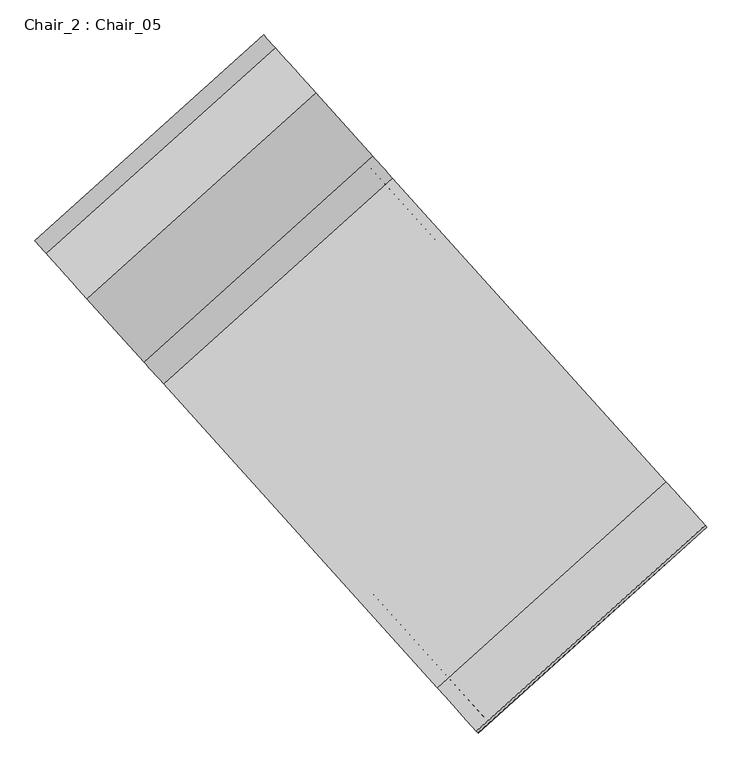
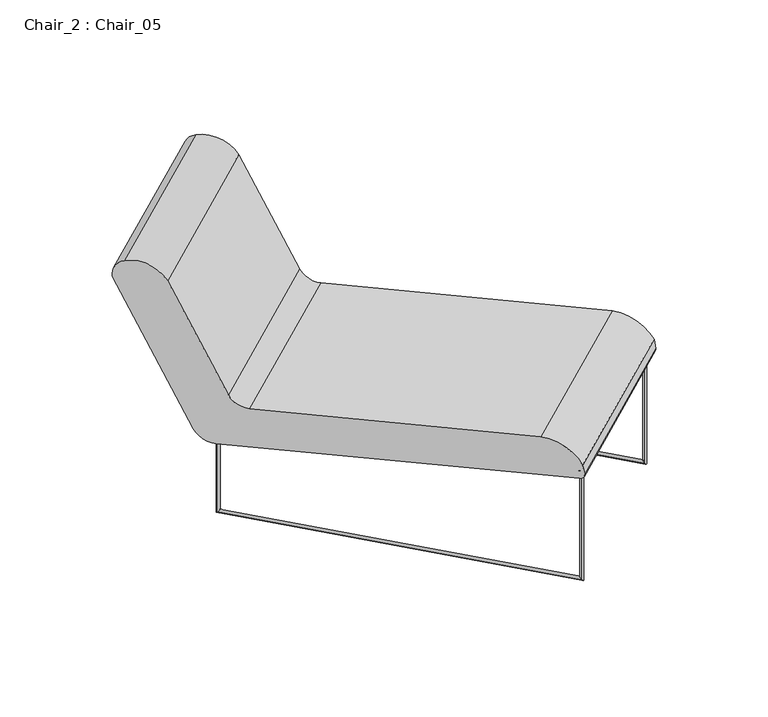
"""IFC4 building model written with IfcOpenShell, lengths in millimetres: furniture geometry, Chair_2 : Chair_05."""

from ifc_helpers import new_model, si_unit, point, frame, frame_2d, origin, place, context, project, spatial, polyline, circle_curve, ellipse_curve, trimmed, segment, composite_curve, outline, extrude, source, transform, mapped, element, save
from ifc_brep_helpers import cylinder_surface, advanced_brep


def chair_2_chair_05_0295ca72(model_context):
    return source(origin(), model_context, "Body", "SolidModel", [
        advanced_brep(
        [(-4191.8663449, 23696.7700207, 8319.9472793), (-4199.8920961, 23690.80451, 8320.7909916), (-4199.8920961, 23690.80451, 8077.5760733), (-4191.8663449, 23696.7700207, 8078.5131107), (-3504.9344847, 22918.9758895, 8077.5760733), (-3498.1627343, 22926.3341091, 8078.5131107), (-3504.9344847, 22918.9758895, 8429.9520248), (-3498.1627343, 22926.3341091, 8428.9113393)],
        [
            (0, 1, ellipse_curve(frame((-4195.8792205, 23693.7872653, 8320.3691355), z_axis=(-0.44773576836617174, 0.49726094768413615, -0.7431448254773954), x_axis=(-0.4972609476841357, 0.5522642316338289, 0.669130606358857)), 6.7281636, 5.0)),
            (1, 2),
            (2, 3, ellipse_curve(frame((-4195.8792205, 23693.7872653, 8078.044592), z_axis=(-0.47314678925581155, 0.5254827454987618, 0.7071067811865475), x_axis=(0.4731467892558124, -0.525482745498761, 0.7071067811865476)), 7.0710678, 5.0)),
            (3, 0),
            (1, 0, ellipse_curve(frame((-4195.8792205, 23693.7872653, 8320.3691355), z_axis=(-0.44773576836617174, 0.49726094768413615, -0.7431448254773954), x_axis=(-0.4972609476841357, 0.5522642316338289, 0.669130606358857)), 6.7281636, 5.0)),
            (3, 2, ellipse_curve(frame((-4195.8792205, 23693.7872653, 8078.044592), z_axis=(-0.47314678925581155, 0.5254827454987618, 0.7071067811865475), x_axis=(0.4731467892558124, -0.525482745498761, 0.7071067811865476)), 7.0710678, 5.0)),
            (2, 4),
            (4, 5, ellipse_curve(frame((-3501.5486095, 22922.6549993, 8078.044592), z_axis=(-0.47314678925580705, 0.5254827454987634, -0.7071067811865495), x_axis=(-0.47314678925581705, 0.5254827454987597, 0.7071067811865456)), 7.0710678, 5.0)),
            (5, 3),
            (5, 4, ellipse_curve(frame((-3501.5486095, 22922.6549993, 8078.044592), z_axis=(-0.47314678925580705, 0.5254827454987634, -0.7071067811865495), x_axis=(-0.47314678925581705, 0.5254827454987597, 0.7071067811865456)), 7.0710678, 5.0)),
            (4, 6),
            (6, 7, ellipse_curve(frame((-3501.5486095, 22922.6549993, 8429.431682), z_axis=(0.4972609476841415, -0.5522642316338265, -0.6691306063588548), x_axis=(-0.44773576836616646, 0.49726094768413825, -0.7431448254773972)), 7.4723827, 5.0)),
            (7, 5),
            (7, 6, ellipse_curve(frame((-3501.5486095, 22922.6549993, 8429.431682), z_axis=(0.4972609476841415, -0.5522642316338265, -0.6691306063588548), x_axis=(-0.44773576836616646, 0.49726094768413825, -0.7431448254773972)), 7.4723827, 5.0)),
            (6, 1),
            (0, 7),
        ],
        [
            cylinder_surface(frame((-4195.8792205, 23693.7872653, 8318.6084782), z_axis=(0.0, 0.0, 1.0), x_axis=(0.802575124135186, 0.5965510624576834, 0.0)), 5.0),
            cylinder_surface(frame((-4194.5707971, 23692.334114, 8078.044592), z_axis=(-0.669130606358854, 0.743144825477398, 0.0), x_axis=(0.739875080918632, 0.6661865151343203, 0.09370374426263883)), 5.0),
            cylinder_surface(frame((-3501.5486095, 22922.6549993, 8080.0), z_axis=(0.0, 0.0, -1.0000000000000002), x_axis=(0.6771750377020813, 0.7358219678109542, 0.0)), 5.0),
            cylinder_surface(frame((-3502.9938003, 22924.2600463, 8429.2046775), z_axis=(0.6654650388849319, -0.739073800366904, 0.1045284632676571), x_axis=(0.7464290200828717, 0.6589076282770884, -0.093190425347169)), 5.0),
        ],
        [
            (0, [[1, 2, 3, 4]]),
            (0, [[5, -4, 6, -2]]),
            (1, [[-3, 7, 8, 9]]),
            (1, [[-6, -9, 10, -7]]),
            (2, [[-8, 11, 12, 13]]),
            (2, [[-10, -13, 14, -11]]),
            (3, [[-12, 15, -1, 16]]),
            (3, [[-14, -16, -5, -15]]),
        ],
    ),
        advanced_brep(
        [(-4615.4588954, 23305.365575, 8319.9472793), (-4623.4846466, 23299.4000644, 8320.7909916), (-4623.4846466, 23299.4000644, 8077.5760733), (-4615.4588954, 23305.365575, 8078.5131107), (-3928.5270352, 22527.5714438, 8077.5760733), (-3921.7552848, 22534.9296635, 8078.5131107), (-3928.5270352, 22527.5714438, 8429.9520248), (-3921.7552848, 22534.9296635, 8428.9113393)],
        [
            (0, 1, ellipse_curve(frame((-4619.471771, 23302.3828197, 8320.3691355), z_axis=(-0.44773576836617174, 0.49726094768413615, -0.7431448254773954), x_axis=(-0.4972609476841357, 0.5522642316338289, 0.669130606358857)), 6.7281636, 5.0)),
            (1, 2),
            (2, 3, ellipse_curve(frame((-4619.471771, 23302.3828197, 8078.044592), z_axis=(-0.47314678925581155, 0.5254827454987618, 0.7071067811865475), x_axis=(0.4731467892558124, -0.525482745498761, 0.7071067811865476)), 7.0710678, 5.0)),
            (3, 0),
            (1, 0, ellipse_curve(frame((-4619.471771, 23302.3828197, 8320.3691355), z_axis=(-0.44773576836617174, 0.49726094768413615, -0.7431448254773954), x_axis=(-0.4972609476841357, 0.5522642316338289, 0.669130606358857)), 6.7281636, 5.0)),
            (3, 2, ellipse_curve(frame((-4619.471771, 23302.3828197, 8078.044592), z_axis=(-0.47314678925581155, 0.5254827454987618, 0.7071067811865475), x_axis=(0.4731467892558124, -0.525482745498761, 0.7071067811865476)), 7.0710678, 5.0)),
            (2, 4),
            (4, 5, ellipse_curve(frame((-3925.14116, 22531.2505537, 8078.044592), z_axis=(-0.47314678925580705, 0.5254827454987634, -0.7071067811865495), x_axis=(-0.47314678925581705, 0.5254827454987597, 0.7071067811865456)), 7.0710678, 5.0)),
            (5, 3),
            (5, 4, ellipse_curve(frame((-3925.14116, 22531.2505537, 8078.044592), z_axis=(-0.47314678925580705, 0.5254827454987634, -0.7071067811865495), x_axis=(-0.47314678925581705, 0.5254827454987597, 0.7071067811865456)), 7.0710678, 5.0)),
            (4, 6),
            (6, 7, ellipse_curve(frame((-3925.14116, 22531.2505537, 8429.431682), z_axis=(0.4972609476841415, -0.5522642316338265, -0.6691306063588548), x_axis=(-0.44773576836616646, 0.49726094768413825, -0.7431448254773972)), 7.4723827, 5.0)),
            (7, 5),
            (7, 6, ellipse_curve(frame((-3925.14116, 22531.2505537, 8429.431682), z_axis=(0.4972609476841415, -0.5522642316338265, -0.6691306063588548), x_axis=(-0.44773576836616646, 0.49726094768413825, -0.7431448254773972)), 7.4723827, 5.0)),
            (6, 1),
            (0, 7),
        ],
        [
            cylinder_surface(frame((-4619.471771, 23302.3828197, 8318.6084782), z_axis=(0.0, 0.0, 1.0), x_axis=(0.802575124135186, 0.5965510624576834, 0.0)), 5.0),
            cylinder_surface(frame((-4618.1633477, 23300.9296684, 8078.044592), z_axis=(-0.669130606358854, 0.743144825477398, 0.0), x_axis=(0.739875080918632, 0.6661865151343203, 0.09370374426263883)), 5.0),
            cylinder_surface(frame((-3925.14116, 22531.2505537, 8080.0), z_axis=(0.0, 0.0, -1.0000000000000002), x_axis=(0.6771750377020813, 0.7358219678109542, 0.0)), 5.0),
            cylinder_surface(frame((-3926.5863508, 22532.8556007, 8429.2046775), z_axis=(0.6654650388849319, -0.739073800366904, 0.1045284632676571), x_axis=(0.7464290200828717, 0.6589076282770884, -0.093190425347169)), 5.0),
        ],
        [
            (0, [[1, 2, 3, 4]]),
            (0, [[5, -4, 6, -2]]),
            (1, [[-3, 7, 8, 9]]),
            (1, [[-6, -9, 10, -7]]),
            (2, [[-8, 11, 12, 13]]),
            (2, [[-10, -13, 14, -11]]),
            (3, [[-12, 15, -1, 16]]),
            (3, [[-14, -16, -5, -15]]),
        ],
    ),
        extrude(outline(composite_curve([segment(polyline([(27.23943, 113.4603914), (-313.8235982, 287.2406842)]), True, "CONTINUOUS"), segment(trimmed(circle_curve(frame_2d((-259.79201, 373.141656)), 101.4809809), [point((-313.8235982, 287.2406842))], [point((-353.9958075, 410.8780313))], False, "CARTESIAN"), True, "CONTINUOUS"), segment(trimmed(circle_curve(frame_2d((-302.4314882, 390.2222769)), 55.5476301), [point((-353.9958075, 410.8780313))], [point((-294.5377367, 445.2061645))], False, "CARTESIAN"), True, "CONTINUOUS"), segment(polyline([(-294.5377367, 445.2061645), (160.4339313, 213.3865209)]), True, "CONTINUOUS"), segment(trimmed(circle_curve(frame_2d((130.9245488, 155.4710968)), 65.0), [point((160.4339313, 213.3865209))], [point((195.568472, 148.6767467))], False, "CARTESIAN"), True, "CONTINUOUS"), segment(polyline([(195.568472, 148.6767467), (86.4424443, -889.5880519)]), True, "CONTINUOUS"), segment(trimmed(circle_curve(frame_2d((71.5246159, -888.0201249)), 15.0), [point((86.4424443, -889.5880519))], [point((68.9198932, -902.7922413))], False, "CARTESIAN"), True, "CONTINUOUS"), segment(polyline([(68.9198932, -902.7922413), (41.1674852, -897.8987429)]), True, "CONTINUOUS"), segment(trimmed(circle_curve(frame_2d((107.9662277, -779.7020558)), 135.7664496), [point((41.1674852, -897.8987429))], [point((-27.7944772, -778.4531202))], False, "CARTESIAN"), True, "CONTINUOUS"), segment(polyline([(-27.7944772, -778.4531202), (59.6713137, 53.7282922)]), True, "CONTINUOUS"), segment(trimmed(circle_curve(frame_2d((0.0, 60.0)), 60.0), [point((59.6713137, 53.7282922))], [point((27.23943, 113.4603914))], True, "CARTESIAN"), True, "CONTINUOUS")], self_intersect=False)), frame((-4537.5369003, 23172.4053765, 8514.1769502), z_axis=(0.7431448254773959, 0.6691306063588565, 0.0), x_axis=(0.0, 0.0, -1.0)), (0.0, 0.0, 1.0), 626.4970533),
    ])


if __name__ == "__main__":
    model = new_model("IFC4")
    model_context = context("Model", 3, world=origin())
    ifc_project = project(units=[si_unit("LENGTHUNIT", "METRE", prefix="MILLI")], contexts=[model_context])
    site = spatial("IfcSite", under=ifc_project)
    building = spatial("IfcBuilding", under=site)
    placement = place(None, origin())
    chair_2_chair_05_shape = chair_2_chair_05_0295ca72(model_context)
    element("IfcFurniture", 1, ObjectType="Chair_2 : Chair_05", at=placement, inside=building, context=model_context, shape_type="MappedRepresentation", body=[
        mapped(chair_2_chair_05_shape, transform((0.0, 0.0, 0.0), x_axis=(1.0, 0.0, 0.0), y_axis=(0.0, 1.0, 0.0), z_axis=(0.0, 0.0, 1.0))),
    ])
    save(model, "model.ifc")
